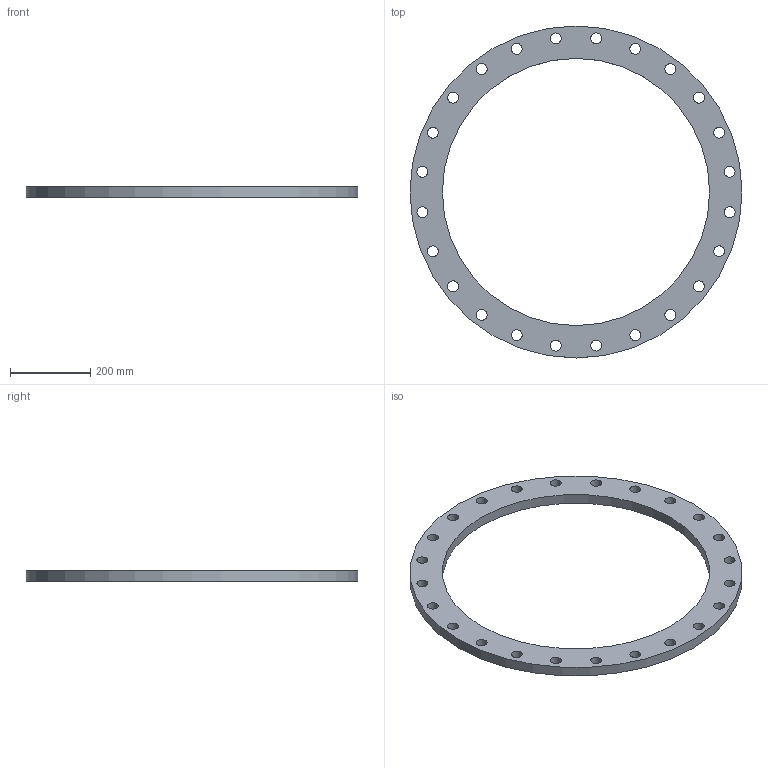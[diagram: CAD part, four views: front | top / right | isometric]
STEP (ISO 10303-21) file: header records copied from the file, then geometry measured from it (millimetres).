
FILE_DESCRIPTION(/* description */ (''),/* implementation_level */ '2;1');
FILE_NAME(/* name */ 'C:\Users\unitec\Documents\Inventor\HP\フランジ\5ksop\5ksop-650.stp',/* time_stamp */ '2016-03-16T15:22:12+09:00',/* author */ ('unitec'),/* organization */ (''),/* preprocessor_version */ 'ST-DEVELOPER v15.2',/* originating_system */ 'Autodesk Inventor 2014',/* authorisation */ '');
FILE_SCHEMA (('AUTOMOTIVE_DESIGN { 1 0 10303 214 3 1 1 }'));
Length unit declared in the file: millimetre
Products named in the file (1): 5ksop-650
Bounding box: 825 x 825 x 26 mm (x, y, z)
Volume: 4538076.1 mm3; surface area: 523636 mm2
Topology: 1 solids, 1 shells, 28 faces, 78 edges, 52 vertices
Faces by surface type: cylinder 26, plane 2
Full cylindrical faces by diameter (mm): 27 x24, 664 x1, 825 x1
Entity records: 925 total; most frequent: DIRECTION 162, CARTESIAN_POINT 133, EDGE_LOOP 104, ORIENTED_EDGE 104, AXIS2_PLACEMENT_3D 81, FACE_BOUND 78, CIRCLE 52, VERTEX_POINT 52
